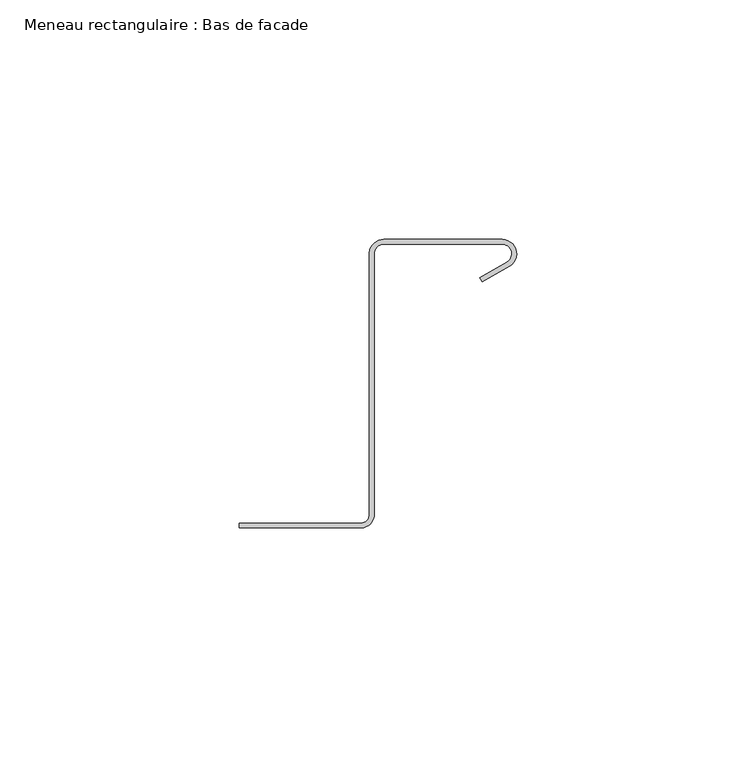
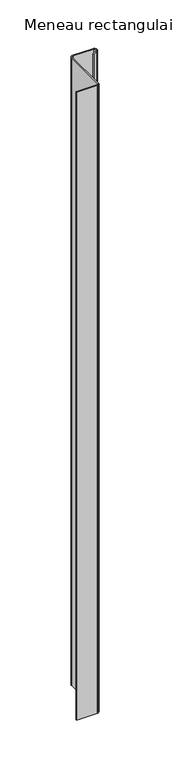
"""IFC4 building model written with IfcOpenShell, lengths in millimetres: member geometry, Meneau rectangulaire : Bas de facade."""

from ifc_helpers import new_model, si_unit, point, frame, frame_2d, origin, place, context, project, spatial, polyline, circle_curve, trimmed, segment, composite_curve, outline, extrude, source, transform, mapped, element, save


def meneau_rectangulaire_bas_de_facade_a4c04e45(model_context):
    return source(origin(), model_context, "Body", "SweptSolid", [
        extrude(outline(composite_curve([segment(polyline([(-32.4584179, -2.9588923), (-57.8548383, -2.9588923), (-57.8548383, -1.9588923), (-32.4584179, -1.9588923)]), True, "CONTINUOUS"), segment(trimmed(circle_curve(frame_2d((-32.4584179, -0.2088923)), 1.75), [point((-32.4584179, -1.9588923))], [point((-30.7239521, -0.4415475))], True, "CARTESIAN"), True, "CONTINUOUS"), segment(polyline([(-30.7239521, -0.4415475), (-30.7239521, 54.522067)]), True, "CONTINUOUS"), segment(trimmed(circle_curve(frame_2d((-27.735368, 54.2605998)), 3.0), [point((-30.7239521, 54.522067))], [point((-27.735368, 57.2605998))], False, "CARTESIAN"), True, "CONTINUOUS"), segment(polyline([(-27.735368, 57.2605998), (-3.0, 57.2605998)]), True, "CONTINUOUS"), segment(trimmed(circle_curve(frame_2d((-3.0, 54.2605998)), 3.0), [point((-3.0, 57.2605998))], [point((-1.5, 51.6625235))], False, "CARTESIAN"), True, "CONTINUOUS"), segment(polyline([(-1.5, 51.6625235), (-7.1638061, 48.3925235), (-7.6638061, 49.258549), (-2.0, 52.528549)]), True, "CONTINUOUS"), segment(trimmed(circle_curve(frame_2d((-3.0, 54.2605998)), 2.0), [point((-2.0, 52.528549))], [point((-3.0, 56.2605998))], True, "CARTESIAN"), True, "CONTINUOUS"), segment(polyline([(-3.0, 56.2605998), (-27.735368, 56.2605998)]), True, "CONTINUOUS"), segment(trimmed(circle_curve(frame_2d((-27.735368, 54.2605998)), 2.0), [point((-27.735368, 56.2605998))], [point((-29.7143802, 54.5495817))], True, "CARTESIAN"), True, "CONTINUOUS"), segment(polyline([(-29.7143802, 54.5495817), (-29.7143802, -0.3898824)]), True, "CONTINUOUS"), segment(trimmed(circle_curve(frame_2d((-32.4584179, -0.2088923)), 2.75), [point((-29.7143802, -0.3898824))], [point((-32.4584179, -2.9588923))], False, "CARTESIAN"), True, "CONTINUOUS")], self_intersect=False)), frame((0.0, 0.0, -801.0), z_axis=(0.0, 0.0, 1.0), x_axis=(1.0, 0.0, 0.0)), (0.0, 0.0, 1.0), 801.0),
    ])


if __name__ == "__main__":
    model = new_model("IFC4")
    model_context = context("Model", 3, world=origin())
    ifc_project = project(units=[si_unit("LENGTHUNIT", "METRE", prefix="MILLI")], contexts=[model_context])
    site = spatial("IfcSite", under=ifc_project)
    building = spatial("IfcBuilding", under=site)
    placement = place(None, origin())
    meneau_rectangulaire_bas_de_facade_shape = meneau_rectangulaire_bas_de_facade_a4c04e45(model_context)
    element("IfcMember", 1, ObjectType="Meneau rectangulaire : Bas de facade", at=placement, inside=building, context=model_context, shape_type="MappedRepresentation", body=[
        mapped(meneau_rectangulaire_bas_de_facade_shape, transform((0.0, 0.0, 0.0), x_axis=(1.0, 0.0, 0.0), y_axis=(0.0, 1.0, 0.0), z_axis=(0.0, 0.0, 1.0))),
    ])
    save(model, "model.ifc")
